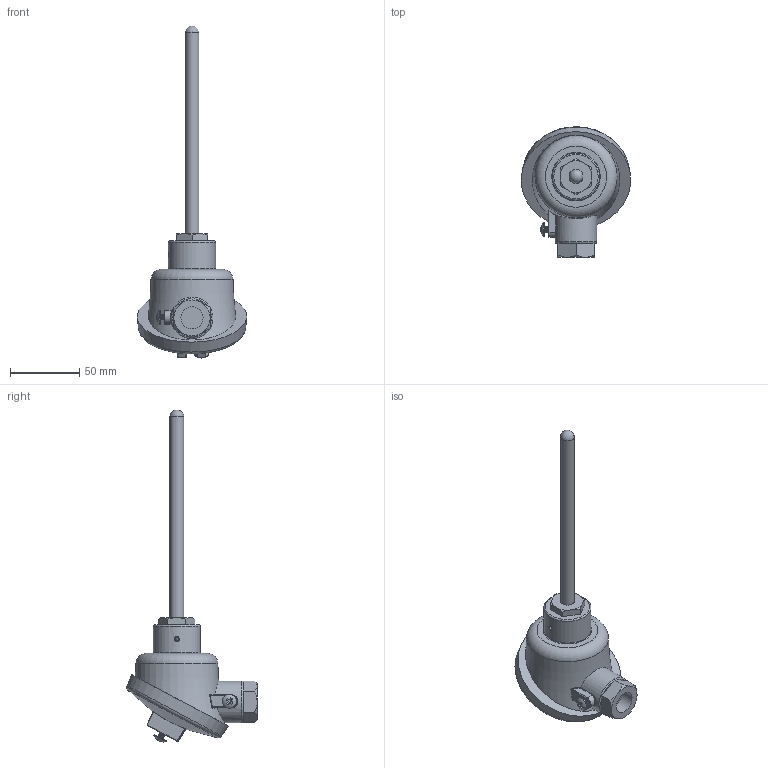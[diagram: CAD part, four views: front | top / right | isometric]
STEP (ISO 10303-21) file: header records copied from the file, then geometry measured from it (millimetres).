
FILE_DESCRIPTION (( 'STEP AP203' ), '1' );
FILE_NAME ('YIT35-5(0).STEP', '2025-03-19T08:16:44', ( '' ), ( '' ), 'SwSTEP 2.0', 'SolidWorks 2021', '' );
FILE_SCHEMA (( 'CONFIG_CONTROL_DESIGN' ));
Length unit declared in the file: millimetre
Products named in the file (1): YIT35-5(0)
Bounding box: 78.98 x 94.09 x 239.48 mm (x, y, z)
Volume: 211097.2 mm3; surface area: 29680.5 mm2
Topology: 1 solids, 2 shells, 195 faces, 479 edges, 296 vertices
Faces by surface type: plane 86, cylinder 47, bspline 24, cone 18, torus 11, sphere 9
Full cylindrical faces by diameter (mm): 3.5 x4, 3.6 x1, 3.8 x10, 10 x3, 16 x1, 18.6 x1, 20.5 x1, 30 x1, 34 x1
Entity records: 8334 total; most frequent: CARTESIAN_POINT 4581, ORIENTED_EDGE 768, DIRECTION 692, EDGE_CURVE 384, AXIS2_PLACEMENT_3D 269, VERTEX_POINT 247, EDGE_LOOP 223, FACE_OUTER_BOUND 202
